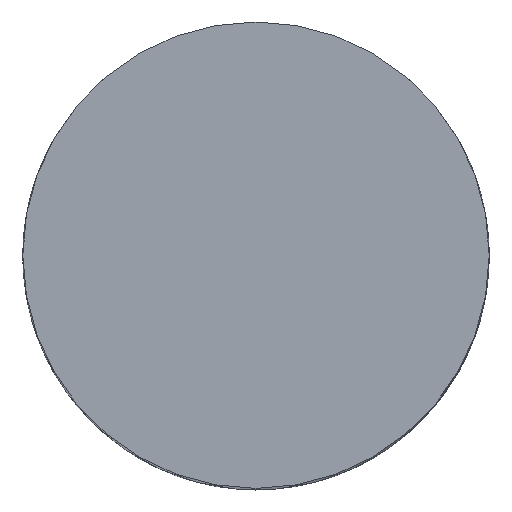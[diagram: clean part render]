
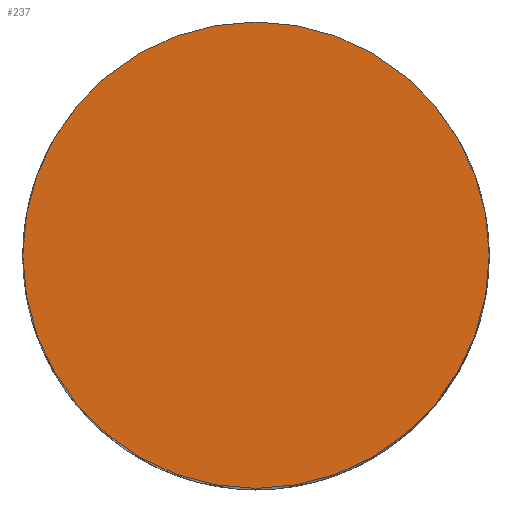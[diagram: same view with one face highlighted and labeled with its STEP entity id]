
A CAD part, top view. The second image highlights one B-rep face of the part: STEP entity #237.
In plain terms, the highlighted planar face has unit normal (0, 0, 1).
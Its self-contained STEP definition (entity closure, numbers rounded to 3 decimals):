
#16 = EDGE_CURVE ( 'NONE', #249, #250, #185, .T. ) ;
#45 = CIRCLE ( 'NONE', #118, 3.5 ) ;
#53 = AXIS2_PLACEMENT_3D ( 'NONE', #298, #309, #311 ) ;
#79 = FACE_OUTER_BOUND ( 'NONE', #358, .T. ) ;
#84 = AXIS2_PLACEMENT_3D ( 'NONE', #470, #464, #460 ) ;
#118 = AXIS2_PLACEMENT_3D ( 'NONE', #241, #238, #236 ) ;
#185 = CIRCLE ( 'NONE', #53, 3.5 ) ;
#236 = DIRECTION ( 'NONE',  ( 1., 0., 0. ) ) ;
#237 = ADVANCED_FACE ( 'NONE', ( #79 ), #467, .T. ) ;
#238 = DIRECTION ( 'NONE',  ( 0., 0., 1. ) ) ;
#241 = CARTESIAN_POINT ( 'NONE',  ( 0., 0., 0. ) ) ;
#242 = ORIENTED_EDGE ( 'NONE', *, *, #472, .T. ) ;
#249 = VERTEX_POINT ( 'NONE', #469 ) ;
#250 = VERTEX_POINT ( 'NONE', #450 ) ;
#298 = CARTESIAN_POINT ( 'NONE',  ( 0., 0., 0. ) ) ;
#309 = DIRECTION ( 'NONE',  ( 0., 0., 1. ) ) ;
#311 = DIRECTION ( 'NONE',  ( 1., 0., 0. ) ) ;
#328 = ORIENTED_EDGE ( 'NONE', *, *, #16, .T. ) ;
#358 = EDGE_LOOP ( 'NONE', ( #328, #242 ) ) ;
#450 = CARTESIAN_POINT ( 'NONE',  ( -3.5, 0., 0. ) ) ;
#460 = DIRECTION ( 'NONE',  ( 1., 0., 0. ) ) ;
#464 = DIRECTION ( 'NONE',  ( 0., 0., 1. ) ) ;
#467 = PLANE ( 'NONE',  #84 ) ;
#469 = CARTESIAN_POINT ( 'NONE',  ( 3.5, 0., 0. ) ) ;
#470 = CARTESIAN_POINT ( 'NONE',  ( 0., 0., 0. ) ) ;
#472 = EDGE_CURVE ( 'NONE', #250, #249, #45, .T. ) ;
